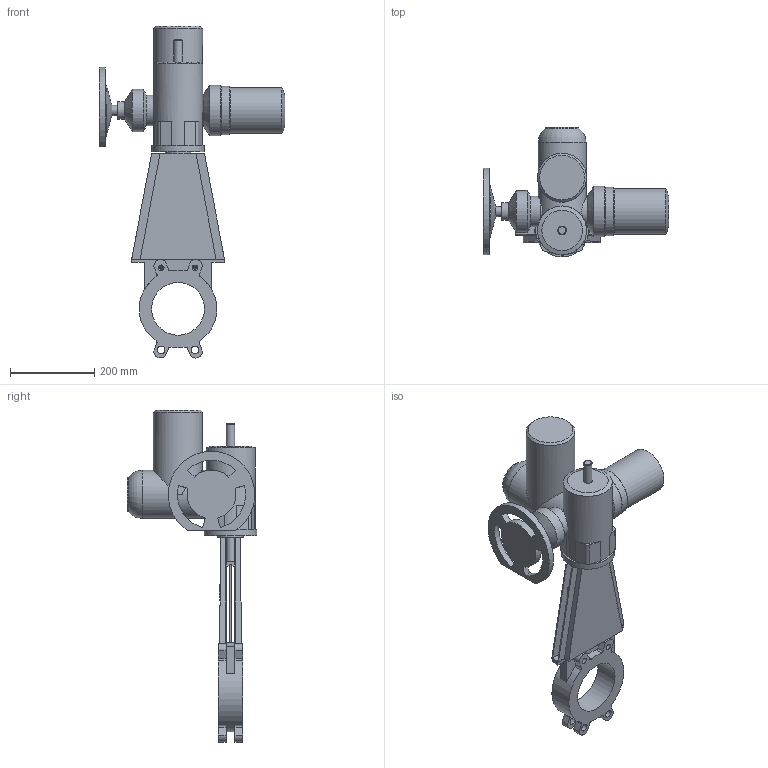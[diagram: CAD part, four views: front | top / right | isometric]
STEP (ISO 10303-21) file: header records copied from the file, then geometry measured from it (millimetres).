
FILE_DESCRIPTION(('STEP AP203'), '1');
FILE_NAME('K51GVA_DN125+MT903.A 07', '', ('UNSPECIFIED'), ('UNSPECIFIED'), 'ASCON STEP Converter 1.6', 'ASCON Math Kernel', '');
FILE_SCHEMA(('CONFIG_CONTROL_DESIGN'));
Length unit declared in the file: millimetre
Bounding box: 440 x 307.5 x 786.37 mm (x, y, z)
Volume: 9981975.5 mm3; surface area: 794555.4 mm2
Topology: 1 solids, 1 shells, 244 faces, 654 edges, 420 vertices
Faces by surface type: plane 145, cylinder 80, cone 18, torus 1
Full cylindrical faces by diameter (mm): 8.5 x4, 12 x4, 13.835 x4, 18 x4, 20 x2, 24 x1, 42 x1, 60 x1, 66 x1, 72 x1, 80 x1, 100 x1, 108 x1, 114 x1, 115 x1, 116 x2, 119 x1, 125 x2, 184 x1
Entity records: 10430 total; most frequent: CARTESIAN_POINT 2394, DIRECTION 1272, ORIENTED_EDGE 1192, EDGE_CURVE 596, AXIS2_PLACEMENT_3D 458, VERTEX_POINT 416, LINE 356, VECTOR 356
